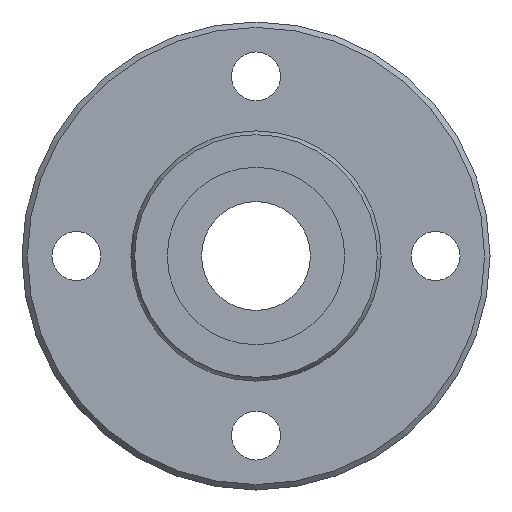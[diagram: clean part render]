
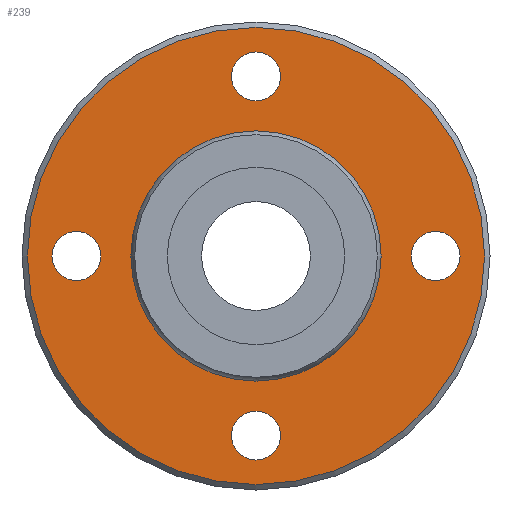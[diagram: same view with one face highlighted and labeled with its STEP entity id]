
A CAD part, left-side view. The second image highlights one B-rep face of the part: STEP entity #239.
In plain terms, the highlighted planar face has unit normal (-1, 0, 0).
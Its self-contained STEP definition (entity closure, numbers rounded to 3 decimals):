
#164=CARTESIAN_POINT('',(27.,0.,21.));
#165=VERTEX_POINT('',#164);
#166=CARTESIAN_POINT('',(27.,0.0,0.0));
#167=DIRECTION('',(1.0,0.0,0.0));
#168=DIRECTION('',(0.0,0.0,-1.0));
#169=AXIS2_PLACEMENT_3D('',#166,#167,#168);
#170=CIRCLE('',#169,21.);
#171=EDGE_CURVE('',#165,#165,#170,.T.);
#176=CARTESIAN_POINT('',(27.,0.0,16.393));
#177=DIRECTION('',(-1.0,0.0,0.0));
#178=DIRECTION('',(0.0,0.0,1.0));
#179=AXIS2_PLACEMENT_3D('',#176,#177,#178);
#180=PLANE('',#179);
#181=ORIENTED_EDGE('',*,*,#171,.F.);
#182=EDGE_LOOP('',(#181));
#183=FACE_OUTER_BOUND('',#182,.T.);
#184=CARTESIAN_POINT('',(27.0,0.0,11.286));
#185=VERTEX_POINT('',#184);
#186=CARTESIAN_POINT('',(27.0,0.0,0.0));
#187=DIRECTION('',(-1.0,0.0,0.0));
#188=DIRECTION('',(0.0,0.0,1.0));
#189=AXIS2_PLACEMENT_3D('',#186,#187,#188);
#190=CIRCLE('',#189,11.286);
#191=EDGE_CURVE('',#185,#185,#190,.T.);
#192=ORIENTED_EDGE('',*,*,#191,.F.);
#193=EDGE_LOOP('',(#192));
#194=FACE_BOUND('',#193,.T.);
#195=CARTESIAN_POINT('',(27.,-18.75,0.));
#196=VERTEX_POINT('',#195);
#197=CARTESIAN_POINT('',(27.,-16.5,0.));
#198=DIRECTION('',(1.0,0.0,0.0));
#199=DIRECTION('',(0.0,1.0,0.0));
#200=AXIS2_PLACEMENT_3D('',#197,#198,#199);
#201=CIRCLE('',#200,2.25);
#202=EDGE_CURVE('',#196,#196,#201,.T.);
#203=ORIENTED_EDGE('',*,*,#202,.T.);
#204=EDGE_LOOP('',(#203));
#205=FACE_BOUND('',#204,.T.);
#206=CARTESIAN_POINT('',(27.,14.25,0.));
#207=VERTEX_POINT('',#206);
#208=CARTESIAN_POINT('',(27.,16.5,0.));
#209=DIRECTION('',(1.0,0.0,0.0));
#210=DIRECTION('',(0.0,1.0,0.0));
#211=AXIS2_PLACEMENT_3D('',#208,#209,#210);
#212=CIRCLE('',#211,2.25);
#213=EDGE_CURVE('',#207,#207,#212,.T.);
#214=ORIENTED_EDGE('',*,*,#213,.T.);
#215=EDGE_LOOP('',(#214));
#216=FACE_BOUND('',#215,.T.);
#217=CARTESIAN_POINT('',(27.,-2.25,16.5));
#218=VERTEX_POINT('',#217);
#219=CARTESIAN_POINT('',(27.,0.,16.5));
#220=DIRECTION('',(1.0,0.0,0.0));
#221=DIRECTION('',(0.0,1.0,0.0));
#222=AXIS2_PLACEMENT_3D('',#219,#220,#221);
#223=CIRCLE('',#222,2.25);
#224=EDGE_CURVE('',#218,#218,#223,.T.);
#225=ORIENTED_EDGE('',*,*,#224,.T.);
#226=EDGE_LOOP('',(#225));
#227=FACE_BOUND('',#226,.T.);
#228=CARTESIAN_POINT('',(27.,-2.25,-16.5));
#229=VERTEX_POINT('',#228);
#230=CARTESIAN_POINT('',(27.,0.,-16.5));
#231=DIRECTION('',(1.0,0.0,0.0));
#232=DIRECTION('',(0.0,1.0,0.0));
#233=AXIS2_PLACEMENT_3D('',#230,#231,#232);
#234=CIRCLE('',#233,2.25);
#235=EDGE_CURVE('',#229,#229,#234,.T.);
#236=ORIENTED_EDGE('',*,*,#235,.T.);
#237=EDGE_LOOP('',(#236));
#238=FACE_BOUND('',#237,.T.);
#239=ADVANCED_FACE('',(#183,#194,#205,#216,#227,#238),#180,.T.);
